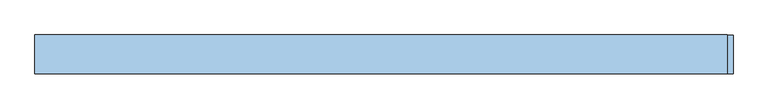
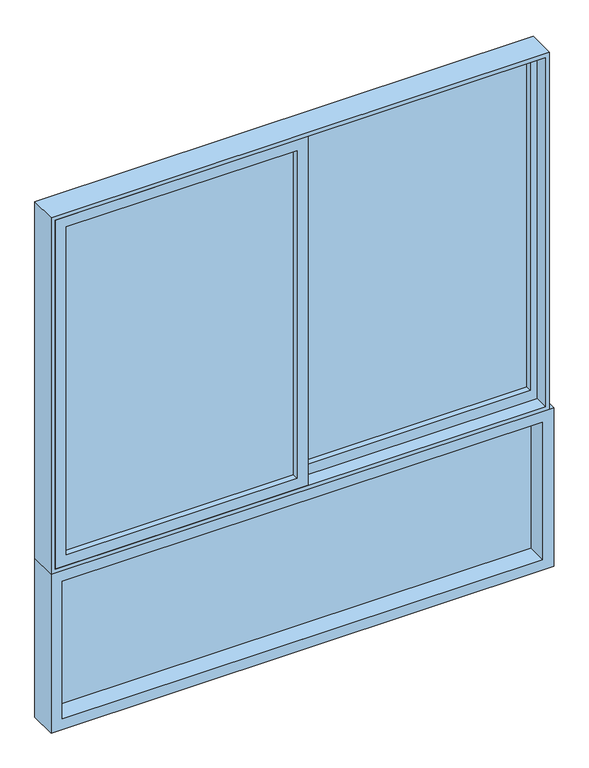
"""IFC4 building model written with IfcOpenShell, lengths in millimetres: window geometry, VENT_ALUM_CORR_2HOJAS_CORRE_1 FIJO ABAJO : V11-VENT_ALUM_CORR_2HOJAS_CORRE 1.0001."""

from ifc_helpers import new_model, si_unit, frame, origin, place, context, project, spatial, polyline, outline, extrude, source, transform, mapped, element, save


def window_b75bd1a9(model_context):
    return source(origin(), model_context, "Body", "SweptSolid", [
        extrude(outline(polyline([(900.0, -900.0), (900.0, 885.0), (2250.0, 885.0), (2250.0, -900.0), (900.0, -900.0)]), holes=[polyline([(2235.0, -885.0), (2235.0, 870.0), (915.0, 870.0), (915.0, -885.0), (2235.0, -885.0)])]), frame((0.0, -50.0, 0.0), z_axis=(0.0, 1.0, 0.0), x_axis=(0.0, 0.0, 1.0)), (0.0, 0.0, 1.0), 100.0),
        extrude(outline(polyline([(-20.0, -28.0), (-845.0, -28.0), (-845.0, -22.0), (-20.0, -22.0), (-20.0, -28.0)])), frame((0.0, 0.0, 955.0), z_axis=(0.0, 0.0, 1.0), x_axis=(1.0, 0.0, 0.0)), (0.0, 0.0, 1.0), 1240.0),
        extrude(outline(polyline([(915.0, -885.0), (915.0, 20.0), (2235.0, 20.0), (2235.0, -885.0), (915.0, -885.0)]), holes=[polyline([(2195.0, -845.0), (2195.0, -20.0), (955.0, -20.0), (955.0, -845.0), (2195.0, -845.0)])]), frame((0.0, -50.0, 0.0), z_axis=(0.0, 1.0, 0.0), x_axis=(0.0, 0.0, 1.0)), (0.0, 0.0, 1.0), 50.0),
        extrude(outline(polyline([(20.0, 28.0), (845.0, 28.0), (845.0, 22.0), (20.0, 22.0), (20.0, 28.0)])), frame((0.0, 0.0, 955.0), z_axis=(0.0, 0.0, 1.0), x_axis=(1.0, 0.0, 0.0)), (0.0, 0.0, 1.0), 1240.0),
        extrude(outline(polyline([(915.0, -20.0), (915.0, 885.0), (2235.0, 885.0), (2235.0, -20.0), (915.0, -20.0)]), holes=[polyline([(2195.0, 20.0), (2195.0, 845.0), (955.0, 845.0), (955.0, 20.0), (2195.0, 20.0)])]), frame((0.0, 0.0, 0.0), z_axis=(0.0, 1.0, 0.0), x_axis=(0.0, 0.0, 1.0)), (0.0, 0.0, 1.0), 50.0),
        extrude(outline(polyline([(-860.0, 28.0), (860.0, 28.0), (860.0, 22.0), (-860.0, 22.0), (-860.0, 28.0)])), frame((0.0, 0.0, 340.0), z_axis=(0.0, 0.0, 1.0), x_axis=(1.0, 0.0, 0.0)), (0.0, 0.0, 1.0), 520.0),
        extrude(outline(polyline([(300.0, -900.0), (300.0, 900.0), (900.0, 900.0), (900.0, -900.0), (300.0, -900.0)]), holes=[polyline([(860.0, -860.0), (860.0, 860.0), (340.0, 860.0), (340.0, -860.0), (860.0, -860.0)])]), frame((0.0, -50.0, 0.0), z_axis=(0.0, 1.0, 0.0), x_axis=(0.0, 0.0, 1.0)), (0.0, 0.0, 1.0), 100.0),
    ])


if __name__ == "__main__":
    model = new_model("IFC4")
    model_context = context("Model", 3, world=origin())
    ifc_project = project(units=[si_unit("LENGTHUNIT", "METRE", prefix="MILLI")], contexts=[model_context])
    site = spatial("IfcSite", under=ifc_project)
    building = spatial("IfcBuilding", under=site)
    placement = place(None, origin())
    window_shape = window_b75bd1a9(model_context)
    element("IfcWindow", 1, ObjectType="VENT_ALUM_CORR_2HOJAS_CORRE_1 FIJO ABAJO : V11-VENT_ALUM_CORR_2HOJAS_CORRE 1.0001", at=placement, inside=building, context=model_context, shape_type="MappedRepresentation", body=[
        mapped(window_shape, transform((0.0, 0.0, 0.0), x_axis=(1.0, 0.0, 0.0), y_axis=(0.0, 1.0, 0.0), z_axis=(0.0, 0.0, 1.0))),
    ])
    save(model, "model.ifc")
